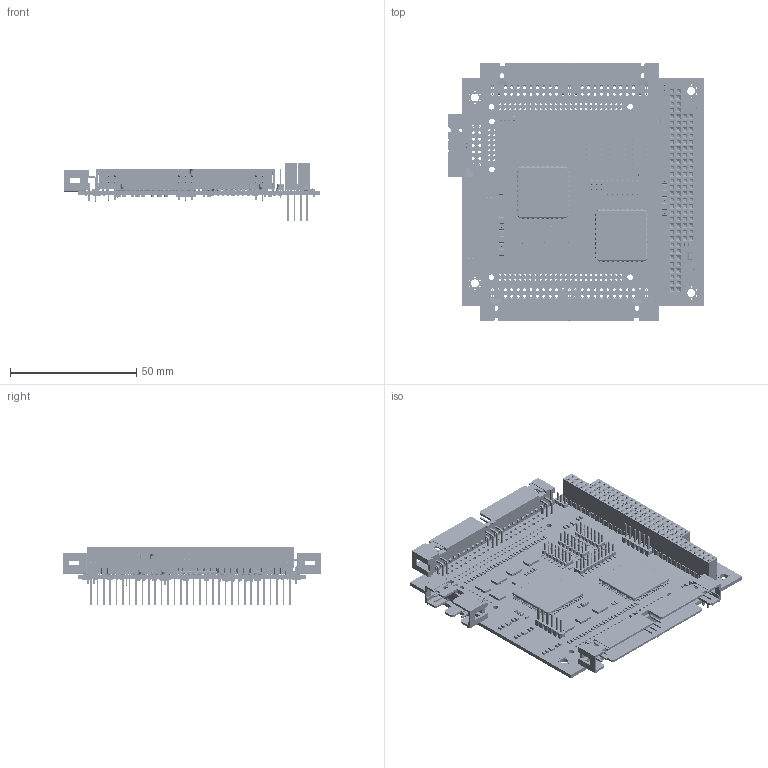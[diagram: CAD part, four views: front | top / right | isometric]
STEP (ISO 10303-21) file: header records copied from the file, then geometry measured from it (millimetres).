
FILE_DESCRIPTION(('Open CASCADE Model'),'2;1');
FILE_NAME('Open CASCADE Shape Model','2019-03-29T15:13:08',('Author'),( 'Open CASCADE'),'Open CASCADE STEP processor 6.8','Open CASCADE 6.8' ,'Unknown');
FILE_SCHEMA(('AUTOMOTIVE_DESIGN { 1 0 10303 214 1 1 1 1 }'));
Length unit declared in the file: millimetre
Products named in the file (242): PCB; Board; U211; 789504752; C233; 789515632; C232; C218; C217; R114; 789518832; R113; R210; R209; R172; 789516528; R112; 789509104; R110; R109; U13; 789510000; U12; U11; U7; 789511152; U6; U5; C62; 789516272; C61; C260; C259; C258; C160; 789517552; C159; C158; C11; C2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
Assembly tree (445 placements, depth 4):
  PCB
    Board
    U211
      789504752
    C233
      789515632
    C232
      789515632
    C218
      789515632
    C217
      789515632
    R114
      789518832
    R113
      789518832
    R210
      789518832
    R209
      789518832
    R172
      789516528
    R112
      789509104
    R110
      789518832
    R109
      789518832
    U13
      789510000
    U12
      789510000
    U11
      789510000
    U7
      789511152
    U6
      789511152
    U5
      789511152
    C62
      789516272
    C61
      789516272
    C260
      789515632
    C259
      789515632
    C258
      789515632
    C160
      789517552
    C159
      789517552
    C158
      789517552
    C11
      789517552
    C2
      789487856
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Bounding box: 101.48 x 102.57 x 23.24 mm (x, y, z)
Volume: 27579 mm3; surface area: 48026.6 mm2
Topology: 1402 solids, 1402 shells, 22720 faces, 55873 edges, 35528 vertices
Faces by surface type: plane 18063, cylinder 4090, sphere 506, torus 36, extrusion 17, bspline 8
Full cylindrical faces by diameter (mm): 0.51 x24, 0.8 x114, 0.91 x6, 0.94 x12, 1.016 x104, 1.11 x114, 2.2 x6, 3.18 x4
Entity records: 439435 total; most frequent: CARTESIAN_POINT 70498, ORIENTED_EDGE 62340, DIRECTION 58222, EDGE_CURVE 31170, VECTOR 25150, LINE 25133, VERTEX_POINT 20134, AXIS2_PLACEMENT_3D 16536
